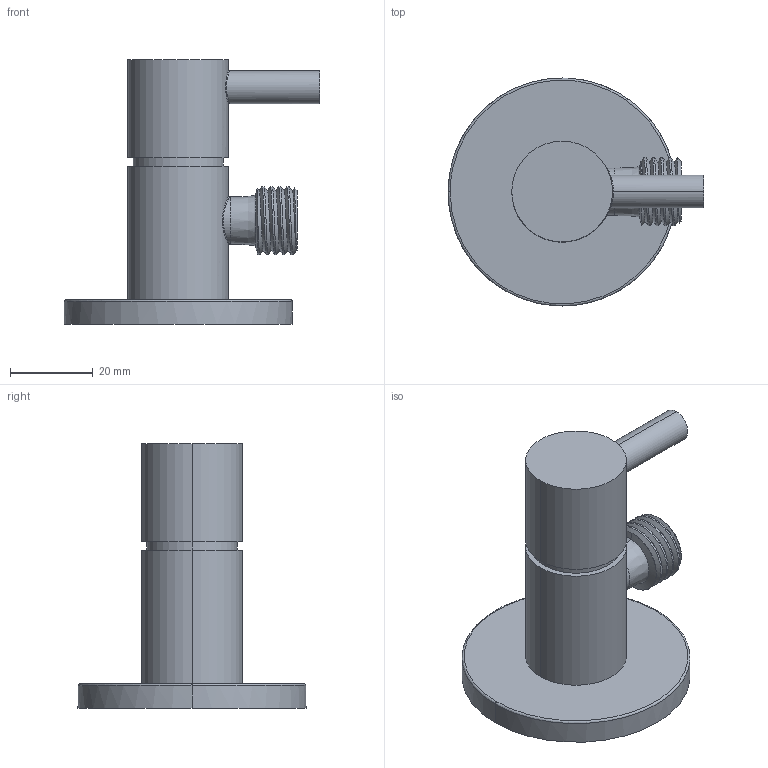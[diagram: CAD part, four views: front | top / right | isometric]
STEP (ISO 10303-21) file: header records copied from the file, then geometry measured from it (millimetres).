
FILE_DESCRIPTION (( 'STEP AP203' ), '1' );
FILE_NAME ('JK001.STEP', '2016-08-15T10:07:44', ( '' ), ( '' ), 'SwSTEP 2.0', 'SolidWorks 2016', '' );
FILE_SCHEMA (( 'CONFIG_CONTROL_DESIGN' ));
Length unit declared in the file: millimetre
Products named in the file (1): JK001
Bounding box: 61.69 x 55 x 63.9 mm (x, y, z)
Volume: 44620.6 mm3; surface area: 13662.3 mm2
Topology: 3 solids, 3 shells, 46 faces, 110 edges, 71 vertices
Faces by surface type: cylinder 22, bspline 10, plane 9, cone 5
Entity records: 3695 total; most frequent: CARTESIAN_POINT 2705, ORIENTED_EDGE 220, DIRECTION 152, EDGE_CURVE 110, VERTEX_POINT 71, AXIS2_PLACEMENT_3D 62, EDGE_LOOP 47, ADVANCED_FACE 46
